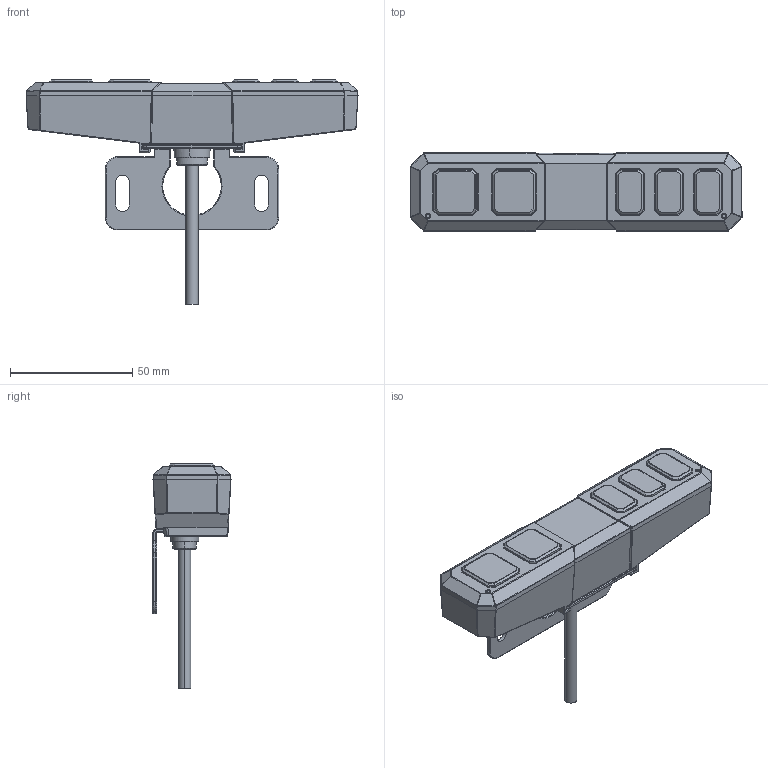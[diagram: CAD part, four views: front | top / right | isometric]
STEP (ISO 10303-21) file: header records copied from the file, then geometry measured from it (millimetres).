
FILE_DESCRIPTION (( 'STEP AP214' ), '1' );
FILE_NAME ('3D_TDH27P.STEP', '2021-02-02T13:42:41', ( '' ), ( '' ), 'SwSTEP 2.0', 'SolidWorks 2015', '' );
FILE_SCHEMA (( 'AUTOMOTIVE_DESIGN' ));
Length unit declared in the file: millimetre
Products named in the file (1): 3D_TDH27P
Bounding box: 136 x 32 x 92.1 mm (x, y, z)
Volume: 100461.8 mm3; surface area: 33995.8 mm2
Topology: 9 solids, 9 shells, 646 faces, 1655 edges, 1028 vertices
Faces by surface type: cylinder 281, plane 242, bspline 77, torus 32, sphere 14
Entity records: 22809 total; most frequent: CARTESIAN_POINT 8533, ORIENTED_EDGE 3292, DIRECTION 2544, EDGE_CURVE 1646, VERTEX_POINT 1025, LINE 864, VECTOR 864, AXIS2_PLACEMENT_3D 840
